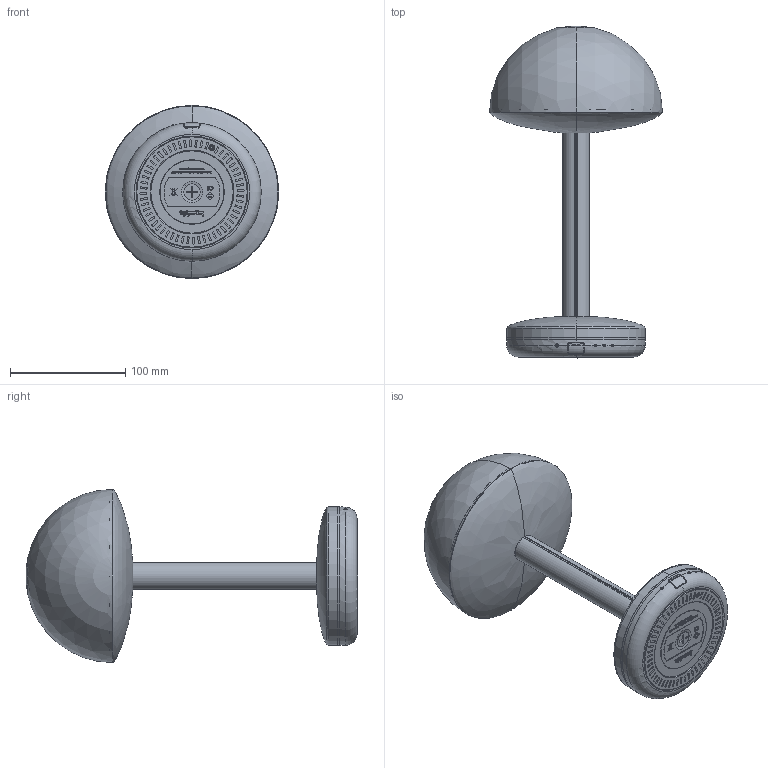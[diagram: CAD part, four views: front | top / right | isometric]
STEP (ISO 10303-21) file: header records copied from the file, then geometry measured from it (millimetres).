
FILE_DESCRIPTION (( 'STEP AP214' ), '1' );
FILE_NAME ('Bug-Aluminium-Shade.STEP', '2023-07-03T14:47:52', ( '' ), ( '' ), 'SwSTEP 2.0', 'SolidWorks 2023', '' );
FILE_SCHEMA (( 'AUTOMOTIVE_DESIGN' ));
Length unit declared in the file: millimetre
Products named in the file (1): Bug-Aluminium-Shade
Bounding box: 150.1 x 287.79 x 150.1 mm (x, y, z)
Volume: 217037.2 mm3; surface area: 217698.4 mm2
Topology: 15 solids, 22 shells, 2572 faces, 6728 edges, 4370 vertices
Faces by surface type: plane 1214, bspline 622, cylinder 534, torus 93, cone 81, sphere 28
Entity records: 125237 total; most frequent: CARTESIAN_POINT 37383, ORIENTED_EDGE 13424, DIRECTION 10525, EDGE_CURVE 6712, VERTEX_POINT 4364, VECTOR 3983, LINE 3983, AXIS2_PLACEMENT_3D 3271
